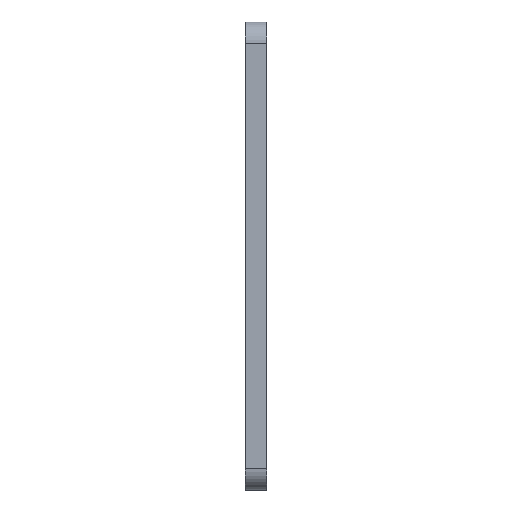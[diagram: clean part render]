
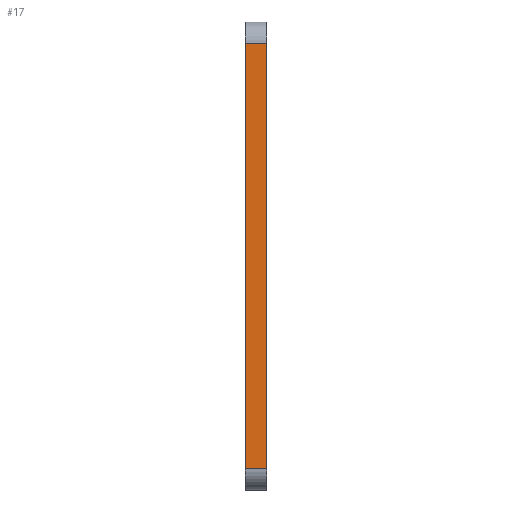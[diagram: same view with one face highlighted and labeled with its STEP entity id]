
A CAD part, left-side view. The second image highlights one B-rep face of the part: STEP entity #17.
In plain terms, the highlighted planar face has unit normal (-1, 0, 0).
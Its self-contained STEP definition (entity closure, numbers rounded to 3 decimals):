
#17 = ADVANCED_FACE('',(#18),#32,.F.);
#18 = FACE_BOUND('',#19,.F.);
#19 = EDGE_LOOP('',(#20,#55,#83,#111));
#20 = ORIENTED_EDGE('',*,*,#21,.F.);
#21 = EDGE_CURVE('',#22,#24,#26,.T.);
#22 = VERTEX_POINT('',#23);
#23 = CARTESIAN_POINT('',(132.,46.05,3.));
#24 = VERTEX_POINT('',#25);
#25 = CARTESIAN_POINT('',(132.,46.05,63.));
#26 = SURFACE_CURVE('',#27,(#31,#43),.PCURVE_S1.);
#27 = LINE('',#28,#29);
#28 = CARTESIAN_POINT('',(132.,46.05,0.));
#29 = VECTOR('',#30,1.);
#30 = DIRECTION('',(0.,0.,1.));
#31 = PCURVE('',#32,#37);
#32 = PLANE('',#33);
#33 = AXIS2_PLACEMENT_3D('',#34,#35,#36);
#34 = CARTESIAN_POINT('',(132.,46.05,0.));
#35 = DIRECTION('',(1.,0.,0.));
#36 = DIRECTION('',(0.,0.,1.));
#37 = DEFINITIONAL_REPRESENTATION('',(#38),#42);
#38 = LINE('',#39,#40);
#39 = CARTESIAN_POINT('',(0.,0.));
#40 = VECTOR('',#41,1.);
#41 = DIRECTION('',(1.,0.));
#42 = ( GEOMETRIC_REPRESENTATION_CONTEXT(2) 
PARAMETRIC_REPRESENTATION_CONTEXT() REPRESENTATION_CONTEXT('2D SPACE',''
  ) );
#43 = PCURVE('',#44,#49);
#44 = PLANE('',#45);
#45 = AXIS2_PLACEMENT_3D('',#46,#47,#48);
#46 = CARTESIAN_POINT('',(132.,46.05,0.));
#47 = DIRECTION('',(0.,1.,0.));
#48 = DIRECTION('',(0.,0.,1.));
#49 = DEFINITIONAL_REPRESENTATION('',(#50),#54);
#50 = LINE('',#51,#52);
#51 = CARTESIAN_POINT('',(0.,0.));
#52 = VECTOR('',#53,1.);
#53 = DIRECTION('',(1.,0.));
#54 = ( GEOMETRIC_REPRESENTATION_CONTEXT(2) 
PARAMETRIC_REPRESENTATION_CONTEXT() REPRESENTATION_CONTEXT('2D SPACE',''
  ) );
#55 = ORIENTED_EDGE('',*,*,#56,.T.);
#56 = EDGE_CURVE('',#22,#57,#59,.T.);
#57 = VERTEX_POINT('',#58);
#58 = CARTESIAN_POINT('',(132.,49.05,3.));
#59 = SURFACE_CURVE('',#60,(#64,#71),.PCURVE_S1.);
#60 = LINE('',#61,#62);
#61 = CARTESIAN_POINT('',(132.,46.05,3.));
#62 = VECTOR('',#63,1.);
#63 = DIRECTION('',(0.,1.,0.));
#64 = PCURVE('',#32,#65);
#65 = DEFINITIONAL_REPRESENTATION('',(#66),#70);
#66 = LINE('',#67,#68);
#67 = CARTESIAN_POINT('',(3.,0.));
#68 = VECTOR('',#69,1.);
#69 = DIRECTION('',(0.,-1.));
#70 = ( GEOMETRIC_REPRESENTATION_CONTEXT(2) 
PARAMETRIC_REPRESENTATION_CONTEXT() REPRESENTATION_CONTEXT('2D SPACE',''
  ) );
#71 = PCURVE('',#72,#77);
#72 = CYLINDRICAL_SURFACE('',#73,3.);
#73 = AXIS2_PLACEMENT_3D('',#74,#75,#76);
#74 = CARTESIAN_POINT('',(135.,46.05,3.));
#75 = DIRECTION('',(0.,1.,0.));
#76 = DIRECTION('',(-1.,0.,0.));
#77 = DEFINITIONAL_REPRESENTATION('',(#78),#82);
#78 = LINE('',#79,#80);
#79 = CARTESIAN_POINT('',(-0.,0.));
#80 = VECTOR('',#81,1.);
#81 = DIRECTION('',(-0.,1.));
#82 = ( GEOMETRIC_REPRESENTATION_CONTEXT(2) 
PARAMETRIC_REPRESENTATION_CONTEXT() REPRESENTATION_CONTEXT('2D SPACE',''
  ) );
#83 = ORIENTED_EDGE('',*,*,#84,.T.);
#84 = EDGE_CURVE('',#57,#85,#87,.T.);
#85 = VERTEX_POINT('',#86);
#86 = CARTESIAN_POINT('',(132.,49.05,63.));
#87 = SURFACE_CURVE('',#88,(#92,#99),.PCURVE_S1.);
#88 = LINE('',#89,#90);
#89 = CARTESIAN_POINT('',(132.,49.05,0.));
#90 = VECTOR('',#91,1.);
#91 = DIRECTION('',(0.,0.,1.));
#92 = PCURVE('',#32,#93);
#93 = DEFINITIONAL_REPRESENTATION('',(#94),#98);
#94 = LINE('',#95,#96);
#95 = CARTESIAN_POINT('',(0.,-3.));
#96 = VECTOR('',#97,1.);
#97 = DIRECTION('',(1.,0.));
#98 = ( GEOMETRIC_REPRESENTATION_CONTEXT(2) 
PARAMETRIC_REPRESENTATION_CONTEXT() REPRESENTATION_CONTEXT('2D SPACE',''
  ) );
#99 = PCURVE('',#100,#105);
#100 = PLANE('',#101);
#101 = AXIS2_PLACEMENT_3D('',#102,#103,#104);
#102 = CARTESIAN_POINT('',(132.,49.05,0.));
#103 = DIRECTION('',(0.,1.,0.));
#104 = DIRECTION('',(0.,0.,1.));
#105 = DEFINITIONAL_REPRESENTATION('',(#106),#110);
#106 = LINE('',#107,#108);
#107 = CARTESIAN_POINT('',(0.,0.));
#108 = VECTOR('',#109,1.);
#109 = DIRECTION('',(1.,0.));
#110 = ( GEOMETRIC_REPRESENTATION_CONTEXT(2) 
PARAMETRIC_REPRESENTATION_CONTEXT() REPRESENTATION_CONTEXT('2D SPACE',''
  ) );
#111 = ORIENTED_EDGE('',*,*,#112,.F.);
#112 = EDGE_CURVE('',#24,#85,#113,.T.);
#113 = SURFACE_CURVE('',#114,(#118,#125),.PCURVE_S1.);
#114 = LINE('',#115,#116);
#115 = CARTESIAN_POINT('',(132.,46.05,63.));
#116 = VECTOR('',#117,1.);
#117 = DIRECTION('',(0.,1.,0.));
#118 = PCURVE('',#32,#119);
#119 = DEFINITIONAL_REPRESENTATION('',(#120),#124);
#120 = LINE('',#121,#122);
#121 = CARTESIAN_POINT('',(63.,0.));
#122 = VECTOR('',#123,1.);
#123 = DIRECTION('',(0.,-1.));
#124 = ( GEOMETRIC_REPRESENTATION_CONTEXT(2) 
PARAMETRIC_REPRESENTATION_CONTEXT() REPRESENTATION_CONTEXT('2D SPACE',''
  ) );
#125 = PCURVE('',#126,#131);
#126 = CYLINDRICAL_SURFACE('',#127,3.);
#127 = AXIS2_PLACEMENT_3D('',#128,#129,#130);
#128 = CARTESIAN_POINT('',(135.,46.05,63.));
#129 = DIRECTION('',(0.,1.,0.));
#130 = DIRECTION('',(-1.,0.,0.));
#131 = DEFINITIONAL_REPRESENTATION('',(#132),#136);
#132 = LINE('',#133,#134);
#133 = CARTESIAN_POINT('',(0.,0.));
#134 = VECTOR('',#135,1.);
#135 = DIRECTION('',(0.,1.));
#136 = ( GEOMETRIC_REPRESENTATION_CONTEXT(2) 
PARAMETRIC_REPRESENTATION_CONTEXT() REPRESENTATION_CONTEXT('2D SPACE',''
  ) );
